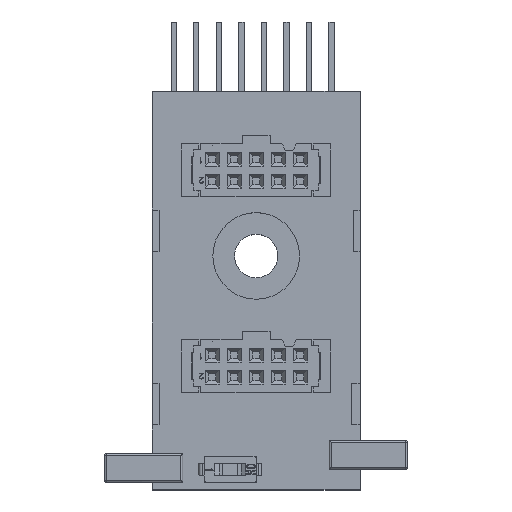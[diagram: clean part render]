
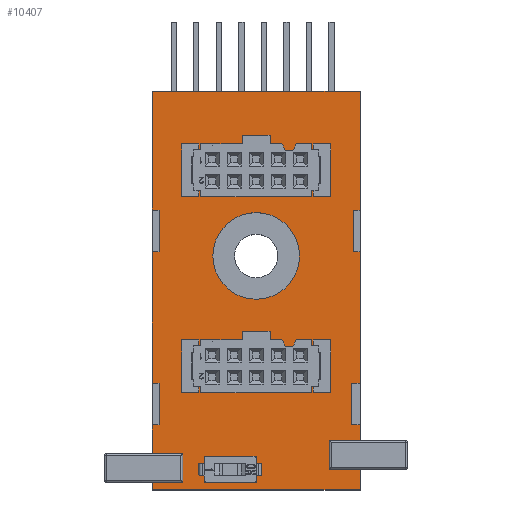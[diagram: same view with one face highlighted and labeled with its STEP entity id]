
A CAD part, top view. The second image highlights one B-rep face of the part: STEP entity #10407.
In plain terms, the highlighted planar face has unit normal (0, 0, 1).
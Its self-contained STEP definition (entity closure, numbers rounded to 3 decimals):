
#351=FACE_BOUND('',#1116,.T.);
#421=CIRCLE('',#11112,5.);
#422=CIRCLE('',#11113,5.);
#541=FACE_OUTER_BOUND('',#1115,.T.);
#1115=EDGE_LOOP('',(#7078,#7079,#7080,#7081,#7082,#7083,#7084,#7085,#7086,
#7087,#7088,#7089,#7090,#7091,#7092,#7093,#7094,#7095,#7096,#7097));
#1116=EDGE_LOOP('',(#7098,#7099));
#1802=LINE('',#14586,#3138);
#1807=LINE('',#14602,#3143);
#1811=LINE('',#14610,#3147);
#1815=LINE('',#14618,#3151);
#1825=LINE('',#14638,#3161);
#1826=LINE('',#14640,#3162);
#1827=LINE('',#14642,#3163);
#1828=LINE('',#14644,#3164);
#1829=LINE('',#14646,#3165);
#1830=LINE('',#14648,#3166);
#1831=LINE('',#14650,#3167);
#1832=LINE('',#14652,#3168);
#1833=LINE('',#14654,#3169);
#1834=LINE('',#14655,#3170);
#1835=LINE('',#14657,#3171);
#1836=LINE('',#14659,#3172);
#1837=LINE('',#14660,#3173);
#1838=LINE('',#14662,#3174);
#1839=LINE('',#14664,#3175);
#1840=LINE('',#14665,#3176);
#3138=VECTOR('',#11906,10.);
#3143=VECTOR('',#11921,1.);
#3147=VECTOR('',#11925,1.);
#3151=VECTOR('',#11929,1.);
#3161=VECTOR('',#11941,1.);
#3162=VECTOR('',#11942,1.);
#3163=VECTOR('',#11943,1.);
#3164=VECTOR('',#11944,1.);
#3165=VECTOR('',#11945,1.);
#3166=VECTOR('',#11946,1.);
#3167=VECTOR('',#11947,1.);
#3168=VECTOR('',#11948,1.);
#3169=VECTOR('',#11949,1.);
#3170=VECTOR('',#11950,1.);
#3171=VECTOR('',#11951,1.);
#3172=VECTOR('',#11952,1.);
#3173=VECTOR('',#11953,1.);
#3174=VECTOR('',#11954,1.);
#3175=VECTOR('',#11955,1.);
#3176=VECTOR('',#11956,1.);
#4441=VERTEX_POINT('',#14582);
#4443=VERTEX_POINT('',#14585);
#4449=VERTEX_POINT('',#14601);
#4452=VERTEX_POINT('',#14607);
#4453=VERTEX_POINT('',#14609);
#4456=VERTEX_POINT('',#14615);
#4457=VERTEX_POINT('',#14617);
#4466=VERTEX_POINT('',#14637);
#4467=VERTEX_POINT('',#14639);
#4468=VERTEX_POINT('',#14641);
#4469=VERTEX_POINT('',#14643);
#4470=VERTEX_POINT('',#14645);
#4471=VERTEX_POINT('',#14647);
#4472=VERTEX_POINT('',#14649);
#4473=VERTEX_POINT('',#14651);
#4474=VERTEX_POINT('',#14653);
#4475=VERTEX_POINT('',#14656);
#4476=VERTEX_POINT('',#14658);
#4477=VERTEX_POINT('',#14661);
#4478=VERTEX_POINT('',#14663);
#4479=VERTEX_POINT('',#14666);
#4480=VERTEX_POINT('',#14667);
#5446=EDGE_CURVE('',#4443,#4441,#1802,.T.);
#5454=EDGE_CURVE('',#4449,#4443,#1807,.T.);
#5458=EDGE_CURVE('',#4453,#4452,#1811,.T.);
#5462=EDGE_CURVE('',#4457,#4456,#1815,.T.);
#5472=EDGE_CURVE('',#4466,#4441,#1825,.T.);
#5473=EDGE_CURVE('',#4467,#4466,#1826,.T.);
#5474=EDGE_CURVE('',#4468,#4467,#1827,.T.);
#5475=EDGE_CURVE('',#4468,#4469,#1828,.T.);
#5476=EDGE_CURVE('',#4470,#4469,#1829,.T.);
#5477=EDGE_CURVE('',#4471,#4470,#1830,.T.);
#5478=EDGE_CURVE('',#4472,#4471,#1831,.T.);
#5479=EDGE_CURVE('',#4472,#4473,#1832,.T.);
#5480=EDGE_CURVE('',#4474,#4473,#1833,.T.);
#5481=EDGE_CURVE('',#4474,#4457,#1834,.T.);
#5482=EDGE_CURVE('',#4456,#4475,#1835,.T.);
#5483=EDGE_CURVE('',#4475,#4476,#1836,.T.);
#5484=EDGE_CURVE('',#4453,#4476,#1837,.T.);
#5485=EDGE_CURVE('',#4477,#4452,#1838,.T.);
#5486=EDGE_CURVE('',#4477,#4478,#1839,.T.);
#5487=EDGE_CURVE('',#4478,#4449,#1840,.T.);
#5488=EDGE_CURVE('',#4479,#4480,#421,.T.);
#5489=EDGE_CURVE('',#4480,#4479,#422,.T.);
#7078=ORIENTED_EDGE('',*,*,#5446,.T.);
#7079=ORIENTED_EDGE('',*,*,#5472,.F.);
#7080=ORIENTED_EDGE('',*,*,#5473,.F.);
#7081=ORIENTED_EDGE('',*,*,#5474,.F.);
#7082=ORIENTED_EDGE('',*,*,#5475,.T.);
#7083=ORIENTED_EDGE('',*,*,#5476,.F.);
#7084=ORIENTED_EDGE('',*,*,#5477,.F.);
#7085=ORIENTED_EDGE('',*,*,#5478,.F.);
#7086=ORIENTED_EDGE('',*,*,#5479,.T.);
#7087=ORIENTED_EDGE('',*,*,#5480,.F.);
#7088=ORIENTED_EDGE('',*,*,#5481,.T.);
#7089=ORIENTED_EDGE('',*,*,#5462,.T.);
#7090=ORIENTED_EDGE('',*,*,#5482,.T.);
#7091=ORIENTED_EDGE('',*,*,#5483,.T.);
#7092=ORIENTED_EDGE('',*,*,#5484,.F.);
#7093=ORIENTED_EDGE('',*,*,#5458,.T.);
#7094=ORIENTED_EDGE('',*,*,#5485,.F.);
#7095=ORIENTED_EDGE('',*,*,#5486,.T.);
#7096=ORIENTED_EDGE('',*,*,#5487,.T.);
#7097=ORIENTED_EDGE('',*,*,#5454,.T.);
#7098=ORIENTED_EDGE('',*,*,#5488,.F.);
#7099=ORIENTED_EDGE('',*,*,#5489,.F.);
#9912=PLANE('',#11111);
#10407=ADVANCED_FACE('',(#541,#351),#9912,.T.);
#11111=AXIS2_PLACEMENT_3D('',#14636,#11939,#11940);
#11112=AXIS2_PLACEMENT_3D('',#14668,#11957,#11958);
#11113=AXIS2_PLACEMENT_3D('',#14669,#11959,#11960);
#11906=DIRECTION('',(-1.,0.,0.));
#11921=DIRECTION('',(0.,1.,0.));
#11925=DIRECTION('',(0.,1.,0.));
#11929=DIRECTION('',(0.,1.,0.));
#11939=DIRECTION('center_axis',(0.,0.,1.));
#11940=DIRECTION('ref_axis',(1.,0.,0.));
#11941=DIRECTION('',(0.,1.,0.));
#11942=DIRECTION('',(-1.,0.,0.));
#11943=DIRECTION('',(0.,1.,0.));
#11944=DIRECTION('',(-1.,0.,0.));
#11945=DIRECTION('',(0.,1.,0.));
#11946=DIRECTION('',(-1.,0.,0.));
#11947=DIRECTION('',(0.,1.,0.));
#11948=DIRECTION('',(-1.,0.,0.));
#11949=DIRECTION('',(0.,1.,0.));
#11950=DIRECTION('',(1.,0.,0.));
#11951=DIRECTION('',(-1.,0.,0.));
#11952=DIRECTION('',(0.,1.,0.));
#11953=DIRECTION('',(-1.,0.,0.));
#11954=DIRECTION('',(1.,0.,0.));
#11955=DIRECTION('',(0.,1.,0.));
#11956=DIRECTION('',(1.,0.,0.));
#11957=DIRECTION('center_axis',(0.,0.,1.));
#11958=DIRECTION('ref_axis',(1.,0.,0.));
#11959=DIRECTION('center_axis',(0.,0.,1.));
#11960=DIRECTION('ref_axis',(1.,0.,0.));
#14582=CARTESIAN_POINT('',(0.,46.,5.6));
#14585=CARTESIAN_POINT('',(24.,46.,5.6));
#14586=CARTESIAN_POINT('',(0.,46.,5.6));
#14601=CARTESIAN_POINT('',(24.,32.3,5.6));
#14602=CARTESIAN_POINT('',(24.,0.,5.6));
#14607=CARTESIAN_POINT('',(24.,27.5,5.6));
#14609=CARTESIAN_POINT('',(24.,12.3,5.6));
#14610=CARTESIAN_POINT('',(24.,0.,5.6));
#14615=CARTESIAN_POINT('',(24.,7.5,5.6));
#14617=CARTESIAN_POINT('',(24.,0.,5.6));
#14618=CARTESIAN_POINT('',(24.,0.,5.6));
#14636=CARTESIAN_POINT('Origin',(0.,0.,5.6));
#14637=CARTESIAN_POINT('',(0.,32.3,5.6));
#14638=CARTESIAN_POINT('',(0.,0.,5.6));
#14639=CARTESIAN_POINT('',(0.8,32.3,5.6));
#14640=CARTESIAN_POINT('',(-2.,32.3,5.6));
#14641=CARTESIAN_POINT('',(0.8,27.5,5.6));
#14642=CARTESIAN_POINT('',(0.8,13.75,5.6));
#14643=CARTESIAN_POINT('',(0.,27.5,5.6));
#14644=CARTESIAN_POINT('',(-2.,27.5,5.6));
#14645=CARTESIAN_POINT('',(0.,12.3,5.6));
#14646=CARTESIAN_POINT('',(0.,0.,5.6));
#14647=CARTESIAN_POINT('',(0.8,12.3,5.6));
#14648=CARTESIAN_POINT('',(-2.,12.3,5.6));
#14649=CARTESIAN_POINT('',(0.8,7.5,5.6));
#14650=CARTESIAN_POINT('',(0.8,3.75,5.6));
#14651=CARTESIAN_POINT('',(0.,7.5,5.6));
#14652=CARTESIAN_POINT('',(-2.,7.5,5.6));
#14653=CARTESIAN_POINT('',(0.,0.,5.6));
#14654=CARTESIAN_POINT('',(0.,0.,5.6));
#14655=CARTESIAN_POINT('',(0.,0.,5.6));
#14656=CARTESIAN_POINT('',(23.,7.5,5.6));
#14657=CARTESIAN_POINT('',(11.5,7.5,5.6));
#14658=CARTESIAN_POINT('',(23.,12.3,5.6));
#14659=CARTESIAN_POINT('',(23.,3.75,5.6));
#14660=CARTESIAN_POINT('',(11.5,12.3,5.6));
#14661=CARTESIAN_POINT('',(23.2,27.5,5.6));
#14662=CARTESIAN_POINT('',(14.,27.5,5.6));
#14663=CARTESIAN_POINT('',(23.2,32.3,5.6));
#14664=CARTESIAN_POINT('',(23.2,13.75,5.6));
#14665=CARTESIAN_POINT('',(14.,32.3,5.6));
#14666=CARTESIAN_POINT('',(17.,27.,5.6));
#14667=CARTESIAN_POINT('',(7.,27.,5.6));
#14668=CARTESIAN_POINT('Origin',(12.,27.,5.6));
#14669=CARTESIAN_POINT('Origin',(12.,27.,5.6));
